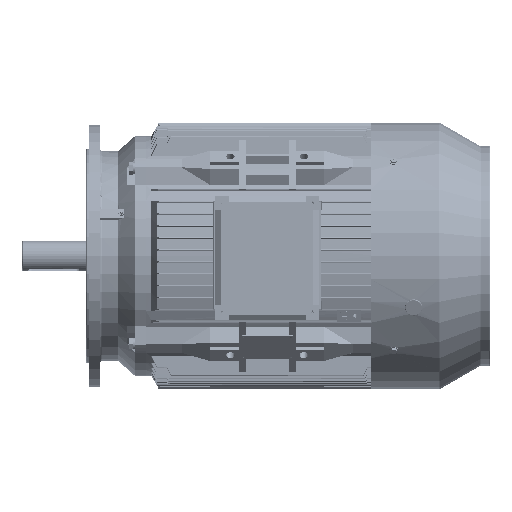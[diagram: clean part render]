
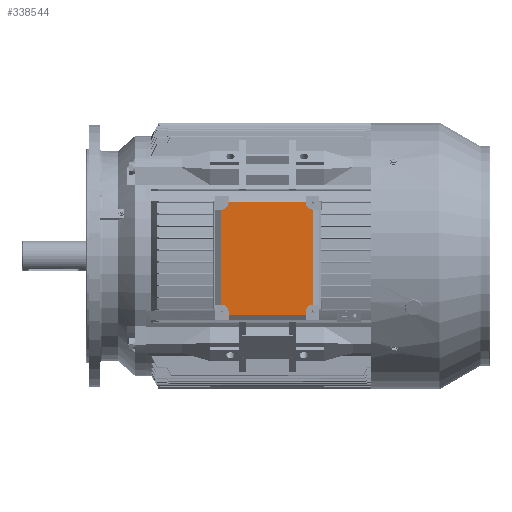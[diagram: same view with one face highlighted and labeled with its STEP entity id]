
A CAD part, top view. The second image highlights one B-rep face of the part: STEP entity #338544.
In plain terms, the highlighted planar face has unit normal (0, 0, 1).
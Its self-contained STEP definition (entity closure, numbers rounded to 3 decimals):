
#2015 = ORIENTED_EDGE ( 'NONE', *, *, #241498, .F. ) ;
#2621 = VECTOR ( 'NONE', #209067, 1000. ) ;
#3742 = ORIENTED_EDGE ( 'NONE', *, *, #258830, .F. ) ;
#13183 = VECTOR ( 'NONE', #139704, 1000. ) ;
#13395 = LINE ( 'NONE', #154558, #364808 ) ;
#15785 = EDGE_CURVE ( 'NONE', #229051, #247635, #264683, .T. ) ;
#19686 = CARTESIAN_POINT ( 'NONE',  ( -39.908, 100.987, 386.917 ) ) ;
#19718 = CARTESIAN_POINT ( 'NONE',  ( 152.092, -113.013, 386.917 ) ) ;
#21650 = FACE_OUTER_BOUND ( 'NONE', #92807, .T. ) ;
#22324 = ORIENTED_EDGE ( 'NONE', *, *, #249883, .F. ) ;
#23783 = CARTESIAN_POINT ( 'NONE',  ( 153.092, -98.013, 386.917 ) ) ;
#24940 = DIRECTION ( 'NONE',  ( -1., 0., 0. ) ) ;
#26460 = CARTESIAN_POINT ( 'NONE',  ( -40.908, -98.013, 386.917 ) ) ;
#30076 = LINE ( 'NONE', #364517, #135937 ) ;
#33349 = VERTEX_POINT ( 'NONE', #224933 ) ;
#37524 = ORIENTED_EDGE ( 'NONE', *, *, #229776, .F. ) ;
#43809 = VECTOR ( 'NONE', #322273, 1000. ) ;
#49463 = CARTESIAN_POINT ( 'NONE',  ( -52.908, 128.987, 386.917 ) ) ;
#55046 = EDGE_CURVE ( 'NONE', #245392, #303812, #364839, .T. ) ;
#56073 = DIRECTION ( 'NONE',  ( 0., 1., 0. ) ) ;
#57001 = CARTESIAN_POINT ( 'NONE',  ( 137.092, -119.013, 386.917 ) ) ;
#58525 = VECTOR ( 'NONE', #364301, 1000. ) ;
#59405 = VERTEX_POINT ( 'NONE', #68869 ) ;
#60596 = CARTESIAN_POINT ( 'NONE',  ( 153.092, 100.987, 386.917 ) ) ;
#61329 = EDGE_CURVE ( 'NONE', #291492, #86927, #182643, .T. ) ;
#67197 = VERTEX_POINT ( 'NONE', #19686 ) ;
#68869 = CARTESIAN_POINT ( 'NONE',  ( -24.908, 115.987, 386.917 ) ) ;
#69035 = CARTESIAN_POINT ( 'NONE',  ( -24.908, 116.987, 386.917 ) ) ;
#69037 = AXIS2_PLACEMENT_3D ( 'NONE', #294607, #153406, #350327 ) ;
#71994 = ORIENTED_EDGE ( 'NONE', *, *, #263590, .F. ) ;
#73900 = VERTEX_POINT ( 'NONE', #115266 ) ;
#81915 = LINE ( 'NONE', #226686, #58525 ) ;
#84736 = VERTEX_POINT ( 'NONE', #107506 ) ;
#86927 = VERTEX_POINT ( 'NONE', #157431 ) ;
#92807 = EDGE_LOOP ( 'NONE', ( #117560, #325305, #3742, #256135, #250282, #123062, #71994, #2015, #190592, #178540, #131820, #145541, #37524, #153818, #111229, #22324 ) ) ;
#95255 = DIRECTION ( 'NONE',  ( 0., -1., 0. ) ) ;
#101756 = AXIS2_PLACEMENT_3D ( 'NONE', #19718, #274213, #246298 ) ;
#103885 = CARTESIAN_POINT ( 'NONE',  ( 137.092, 115.987, 386.917 ) ) ;
#107506 = CARTESIAN_POINT ( 'NONE',  ( -40.908, 100.987, 386.917 ) ) ;
#111229 = ORIENTED_EDGE ( 'NONE', *, *, #137285, .F. ) ;
#111560 = AXIS2_PLACEMENT_3D ( 'NONE', #214681, #157161, #220222 ) ;
#112612 = CARTESIAN_POINT ( 'NONE',  ( 165.092, -98.013, 386.917 ) ) ;
#115266 = CARTESIAN_POINT ( 'NONE',  ( 153.092, 100.987, 386.917 ) ) ;
#116258 = LINE ( 'NONE', #112612, #241383 ) ;
#117560 = ORIENTED_EDGE ( 'NONE', *, *, #317457, .F. ) ;
#117696 = AXIS2_PLACEMENT_3D ( 'NONE', #49463, #305833, #276115 ) ;
#123062 = ORIENTED_EDGE ( 'NONE', *, *, #139536, .T. ) ;
#131820 = ORIENTED_EDGE ( 'NONE', *, *, #55046, .F. ) ;
#132557 = CARTESIAN_POINT ( 'NONE',  ( -40.908, -98.013, 386.917 ) ) ;
#135937 = VECTOR ( 'NONE', #56073, 1000. ) ;
#137285 = EDGE_CURVE ( 'NONE', #33349, #247635, #81915, .T. ) ;
#139158 = CARTESIAN_POINT ( 'NONE',  ( -24.908, -119.013, 386.917 ) ) ;
#139536 = EDGE_CURVE ( 'NONE', #334120, #293782, #213826, .T. ) ;
#139704 = DIRECTION ( 'NONE',  ( 0., -1., 0. ) ) ;
#145541 = ORIENTED_EDGE ( 'NONE', *, *, #345279, .F. ) ;
#149412 = EDGE_CURVE ( 'NONE', #332602, #73900, #322456, .T. ) ;
#150070 = VECTOR ( 'NONE', #24940, 1000. ) ;
#153406 = DIRECTION ( 'NONE',  ( 0., 0., 1. ) ) ;
#153818 = ORIENTED_EDGE ( 'NONE', *, *, #15785, .T. ) ;
#154558 = CARTESIAN_POINT ( 'NONE',  ( -52.908, 100.987, 386.917 ) ) ;
#157161 = DIRECTION ( 'NONE',  ( 0., 0., 1. ) ) ;
#157431 = CARTESIAN_POINT ( 'NONE',  ( 152.092, 100.987, 386.917 ) ) ;
#158760 = CARTESIAN_POINT ( 'NONE',  ( -52.908, -98.013, 386.917 ) ) ;
#164320 = DIRECTION ( 'NONE',  ( 0., 1., 0. ) ) ;
#164558 = CARTESIAN_POINT ( 'NONE',  ( 137.092, 116.987, 386.917 ) ) ;
#167930 = CARTESIAN_POINT ( 'NONE',  ( -39.908, -113.013, 386.917 ) ) ;
#170025 = VECTOR ( 'NONE', #298494, 1000. ) ;
#177448 = VECTOR ( 'NONE', #95255, 1000. ) ;
#178540 = ORIENTED_EDGE ( 'NONE', *, *, #182447, .T. ) ;
#182447 = EDGE_CURVE ( 'NONE', #84736, #303812, #316131, .T. ) ;
#182643 = CIRCLE ( 'NONE', #111560, 15. ) ;
#182884 = CARTESIAN_POINT ( 'NONE',  ( 137.092, -119.013, 386.917 ) ) ;
#185140 = CARTESIAN_POINT ( 'NONE',  ( -24.908, 128.987, 386.917 ) ) ;
#190592 = ORIENTED_EDGE ( 'NONE', *, *, #299944, .F. ) ;
#194273 = PLANE ( 'NONE',  #117696 ) ;
#198382 = VERTEX_POINT ( 'NONE', #214821 ) ;
#209067 = DIRECTION ( 'NONE',  ( 0., 1., 0. ) ) ;
#209593 = AXIS2_PLACEMENT_3D ( 'NONE', #167930, #255215, #164320 ) ;
#213826 = LINE ( 'NONE', #69035, #261348 ) ;
#214681 = CARTESIAN_POINT ( 'NONE',  ( 152.092, 115.987, 386.917 ) ) ;
#214821 = CARTESIAN_POINT ( 'NONE',  ( -24.908, -113.013, 386.917 ) ) ;
#216348 = CARTESIAN_POINT ( 'NONE',  ( 165.092, 100.987, 386.917 ) ) ;
#220222 = DIRECTION ( 'NONE',  ( 0., 1., 0. ) ) ;
#220572 = CIRCLE ( 'NONE', #101756, 15. ) ;
#224871 = CARTESIAN_POINT ( 'NONE',  ( 152.092, -98.013, 386.917 ) ) ;
#224933 = CARTESIAN_POINT ( 'NONE',  ( 137.092, -113.013, 386.917 ) ) ;
#226686 = CARTESIAN_POINT ( 'NONE',  ( 137.092, -131.013, 386.917 ) ) ;
#229051 = VERTEX_POINT ( 'NONE', #139158 ) ;
#229776 = EDGE_CURVE ( 'NONE', #229051, #198382, #30076, .T. ) ;
#241129 = CIRCLE ( 'NONE', #69037, 15. ) ;
#241383 = VECTOR ( 'NONE', #365323, 1000. ) ;
#241498 = EDGE_CURVE ( 'NONE', #67197, #59405, #241129, .T. ) ;
#245392 = VERTEX_POINT ( 'NONE', #275772 ) ;
#246298 = DIRECTION ( 'NONE',  ( 0., 1., 0. ) ) ;
#247635 = VERTEX_POINT ( 'NONE', #57001 ) ;
#249883 = EDGE_CURVE ( 'NONE', #323640, #33349, #220572, .T. ) ;
#250282 = ORIENTED_EDGE ( 'NONE', *, *, #356664, .F. ) ;
#255215 = DIRECTION ( 'NONE',  ( 0., 0., 1. ) ) ;
#256135 = ORIENTED_EDGE ( 'NONE', *, *, #61329, .F. ) ;
#256968 = LINE ( 'NONE', #342446, #177448 ) ;
#258830 = EDGE_CURVE ( 'NONE', #86927, #73900, #300071, .T. ) ;
#261348 = VECTOR ( 'NONE', #351419, 1000. ) ;
#263590 = EDGE_CURVE ( 'NONE', #59405, #293782, #357877, .T. ) ;
#264683 = LINE ( 'NONE', #182884, #43809 ) ;
#268497 = DIRECTION ( 'NONE',  ( 1., 0., 0. ) ) ;
#274213 = DIRECTION ( 'NONE',  ( 0., 0., 1. ) ) ;
#275772 = CARTESIAN_POINT ( 'NONE',  ( -39.908, -98.013, 386.917 ) ) ;
#276115 = DIRECTION ( 'NONE',  ( 0., -1., 0. ) ) ;
#291492 = VERTEX_POINT ( 'NONE', #103885 ) ;
#293782 = VERTEX_POINT ( 'NONE', #325672 ) ;
#294607 = CARTESIAN_POINT ( 'NONE',  ( -39.908, 115.987, 386.917 ) ) ;
#298494 = DIRECTION ( 'NONE',  ( 0., 1., 0. ) ) ;
#299944 = EDGE_CURVE ( 'NONE', #84736, #67197, #13395, .T. ) ;
#300071 = LINE ( 'NONE', #216348, #334267 ) ;
#303812 = VERTEX_POINT ( 'NONE', #132557 ) ;
#305833 = DIRECTION ( 'NONE',  ( 0., 0., 1. ) ) ;
#316131 = LINE ( 'NONE', #26460, #13183 ) ;
#317457 = EDGE_CURVE ( 'NONE', #332602, #323640, #116258, .T. ) ;
#322273 = DIRECTION ( 'NONE',  ( 1., 0., 0. ) ) ;
#322456 = LINE ( 'NONE', #60596, #2621 ) ;
#323640 = VERTEX_POINT ( 'NONE', #224871 ) ;
#325305 = ORIENTED_EDGE ( 'NONE', *, *, #149412, .T. ) ;
#325672 = CARTESIAN_POINT ( 'NONE',  ( -24.908, 116.987, 386.917 ) ) ;
#332602 = VERTEX_POINT ( 'NONE', #23783 ) ;
#334120 = VERTEX_POINT ( 'NONE', #164558 ) ;
#334267 = VECTOR ( 'NONE', #268497, 1000. ) ;
#338544 = ADVANCED_FACE ( 'NONE', ( #21650 ), #194273, .T. ) ;
#342446 = CARTESIAN_POINT ( 'NONE',  ( 137.092, 128.987, 386.917 ) ) ;
#345279 = EDGE_CURVE ( 'NONE', #198382, #245392, #363997, .T. ) ;
#350327 = DIRECTION ( 'NONE',  ( 0., 1., 0. ) ) ;
#351419 = DIRECTION ( 'NONE',  ( -1., 0., 0. ) ) ;
#351485 = DIRECTION ( 'NONE',  ( 1., 0., 0. ) ) ;
#356664 = EDGE_CURVE ( 'NONE', #334120, #291492, #256968, .T. ) ;
#357877 = LINE ( 'NONE', #185140, #170025 ) ;
#363997 = CIRCLE ( 'NONE', #209593, 15. ) ;
#364301 = DIRECTION ( 'NONE',  ( 0., -1., 0. ) ) ;
#364517 = CARTESIAN_POINT ( 'NONE',  ( -24.908, -131.013, 386.917 ) ) ;
#364808 = VECTOR ( 'NONE', #351485, 1000. ) ;
#364839 = LINE ( 'NONE', #158760, #150070 ) ;
#365323 = DIRECTION ( 'NONE',  ( -1., 0., 0. ) ) ;
